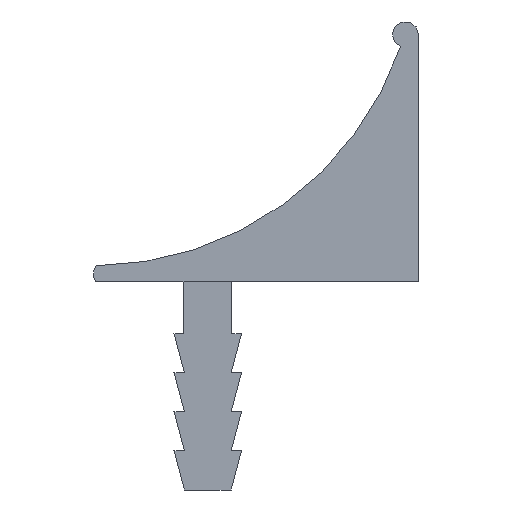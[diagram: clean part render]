
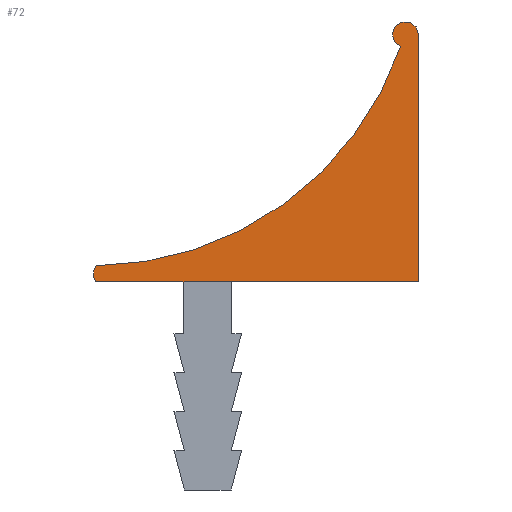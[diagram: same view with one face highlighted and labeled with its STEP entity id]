
A CAD part, left-side view. The second image highlights one B-rep face of the part: STEP entity #72.
In plain terms, the highlighted planar face has unit normal (-1, 0, 0).
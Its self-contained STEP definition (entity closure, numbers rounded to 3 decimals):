
#72 = ADVANCED_FACE( '', ( #156 ), #157, .F. );
#156 = FACE_OUTER_BOUND( '', #248, .T. );
#157 = PLANE( '', #249 );
#248 = EDGE_LOOP( '', ( #403, #404, #405, #406, #407 ) );
#249 = AXIS2_PLACEMENT_3D( '', #408, #409, #410 );
#403 = ORIENTED_EDGE( '', *, *, #624, .F. );
#404 = ORIENTED_EDGE( '', *, *, #578, .F. );
#405 = ORIENTED_EDGE( '', *, *, #565, .F. );
#406 = ORIENTED_EDGE( '', *, *, #625, .F. );
#407 = ORIENTED_EDGE( '', *, *, #586, .T. );
#408 = CARTESIAN_POINT( '', ( -30., 3.507, 21.117 ) );
#409 = DIRECTION( '', ( 1., 0., 0. ) );
#410 = DIRECTION( '', ( 0., 0., -1. ) );
#565 = EDGE_CURVE( '', #668, #669, #670, .T. );
#578 = EDGE_CURVE( '', #669, #691, #692, .T. );
#586 = EDGE_CURVE( '', #703, #704, #705, .T. );
#624 = EDGE_CURVE( '', #691, #704, #768, .T. );
#625 = EDGE_CURVE( '', #703, #668, #769, .T. );
#668 = VERTEX_POINT( '', #821 );
#669 = VERTEX_POINT( '', #822 );
#670 = LINE( '', #823, #824 );
#691 = VERTEX_POINT( '', #855 );
#692 = LINE( '', #856, #857 );
#703 = VERTEX_POINT( '', #873 );
#704 = VERTEX_POINT( '', #874 );
#705 = CIRCLE( '', #875, 12.5 );
#768 = CIRCLE( '', #968, 0.5 );
#769 = CIRCLE( '', #969, 0.502 );
#821 = CARTESIAN_POINT( '', ( -30., -8.998, 17.501 ) );
#822 = CARTESIAN_POINT( '', ( -30., -8.998, 8. ) );
#823 = CARTESIAN_POINT( '', ( -30., -8.998, 17.501 ) );
#824 = VECTOR( '', #1042, 1000. );
#855 = CARTESIAN_POINT( '', ( -30., 3.402, 8. ) );
#856 = CARTESIAN_POINT( '', ( -30., -8.998, 8. ) );
#857 = VECTOR( '', #1053, 1000. );
#873 = CARTESIAN_POINT( '', ( -30., -8.308, 17.036 ) );
#874 = CARTESIAN_POINT( '', ( -30., 3.386, 8.617 ) );
#875 = AXIS2_PLACEMENT_3D( '', #1059, #1060, #1061 );
#968 = AXIS2_PLACEMENT_3D( '', #1095, #1096, #1097 );
#969 = AXIS2_PLACEMENT_3D( '', #1098, #1099, #1100 );
#1042 = DIRECTION( '', ( 0., 0., -1. ) );
#1053 = DIRECTION( '', ( 0., 1., 0. ) );
#1059 = CARTESIAN_POINT( '', ( -30., 3.507, 21.117 ) );
#1060 = DIRECTION( '', ( 1., 0., 0. ) );
#1061 = DIRECTION( '', ( 0., 0., -1. ) );
#1095 = CARTESIAN_POINT( '', ( -30., 3.001, 8.299 ) );
#1096 = DIRECTION( '', ( 1., 0., 0. ) );
#1097 = DIRECTION( '', ( 0., 0., -1. ) );
#1098 = CARTESIAN_POINT( '', ( -30., -8.496, 17.501 ) );
#1099 = DIRECTION( '', ( 1., 0., 0. ) );
#1100 = DIRECTION( '', ( 0., 0., -1. ) );
